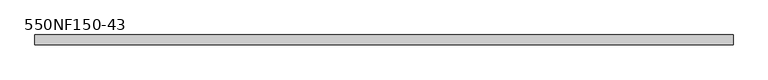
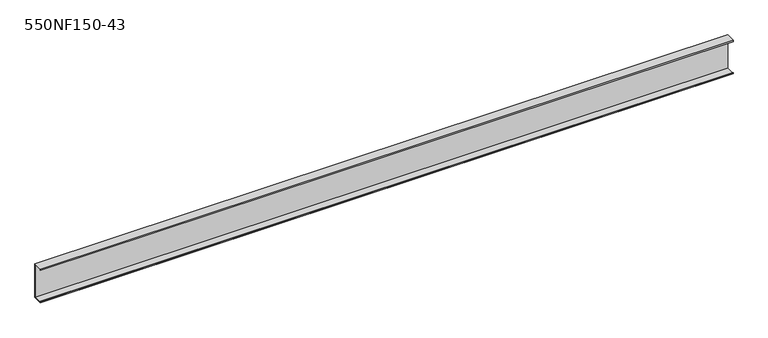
"""IFC4 building model written with IfcOpenShell, lengths in millimetres: beam geometry, BIMSF-SSMA-S : 550NF150-43."""

from ifc_helpers import new_model, si_unit, frame, origin, place, context, project, spatial, polyline, outline, extrude, source, transform, mapped, element, save


def beam_550nf150_43_d58292a1(model_context):
    return source(origin(), model_context, "Body", "SweptSolid", [
        extrude(outline(polyline([(19.05, 69.85), (19.05, -69.85), (-19.05, -69.85), (-19.05, -65.0748), (-17.9003158, -65.0748), (-17.9003158, -68.7003158), (17.9003158, -68.7003158), (17.9003158, 68.7003158), (-17.9003158, 68.7003158), (-17.9003158, 65.0748), (-19.05, 65.0748), (-19.05, 69.85), (19.05, 69.85)])), frame((-1370.2794456, 0.0, 0.0), z_axis=(1.0, 0.0, 0.0), x_axis=(0.0, 1.0, 0.0)), (0.0, 0.0, 1.0), 2740.5588912),
    ])


if __name__ == "__main__":
    model = new_model("IFC4")
    model_context = context("Model", 3, world=origin())
    ifc_project = project(units=[si_unit("LENGTHUNIT", "METRE", prefix="MILLI")], contexts=[model_context])
    site = spatial("IfcSite", under=ifc_project)
    building = spatial("IfcBuilding", under=site)
    placement = place(None, origin())
    beam_550nf150_43_shape = beam_550nf150_43_d58292a1(model_context)
    element("IfcBeam", 1, ObjectType="BIMSF-SSMA-S : 550NF150-43", at=placement, inside=building, context=model_context, shape_type="MappedRepresentation", body=[
        mapped(beam_550nf150_43_shape, transform((0.0, 0.0, 0.0), x_axis=(1.0, 0.0, 0.0), y_axis=(0.0, 1.0, 0.0), z_axis=(0.0, 0.0, 1.0))),
    ])
    save(model, "model.ifc")
